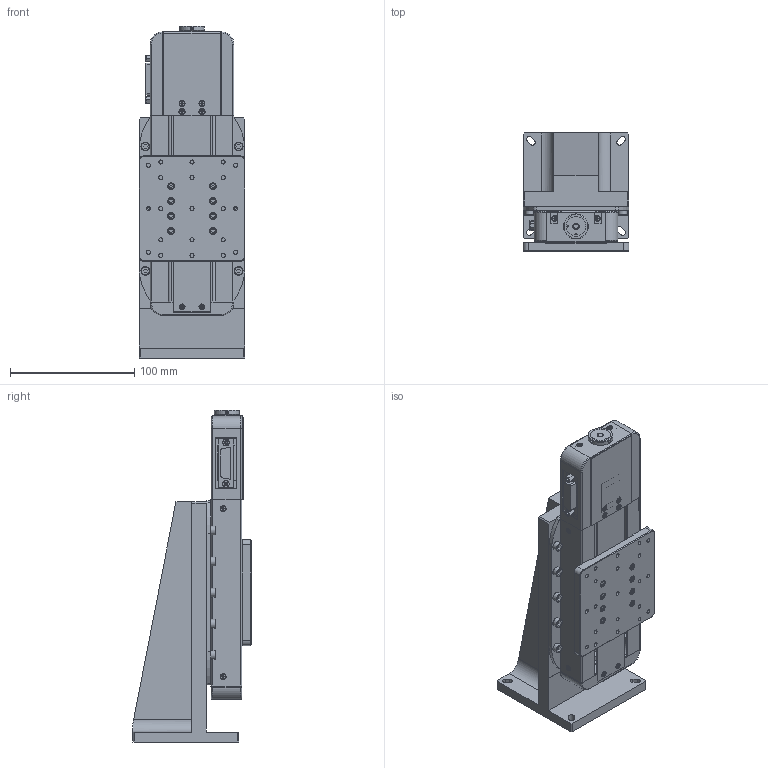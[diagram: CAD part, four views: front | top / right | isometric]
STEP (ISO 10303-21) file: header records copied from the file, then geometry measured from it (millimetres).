
FILE_DESCRIPTION(/* description */ (''),/* implementation_level */ '2;1');
FILE_NAME(/* name */ 'Z:\4_開発\SGSPﾘﾆｭｰｱﾙ\OSMS\OSMS20-85(Z)\OSMS20-85(Z)_STP.stp',/* time_stamp */ '2015-12-03T13:35:41+09:00',/* author */ ('s.makino'),/* organization */ (''),/* preprocessor_version */ 'ST-DEVELOPER v15.6',/* originating_system */ 'Autodesk Inventor 2015',/* authorisation */ '');
FILE_SCHEMA (('AUTOMOTIVE_DESIGN { 1 0 10303 214 3 1 1 }'));
Products named in the file (4): OSZ-20; OS2085Z-M02-13001-S08; OS2085Z-M02-13001-S03; OS2085Z-M02-13001-TS01
Bounding box: 85 x 95 x 266.8 mm (x, y, z)
Volume: 690218.8 mm3; surface area: 231731.8 mm2
Topology: 3 solids, 71 shells, 2391 faces, 5985 edges, 3878 vertices
Faces by surface type: plane 1530, cylinder 568, cone 278, torus 14, sphere 1
Full cylindrical faces by diameter (mm): 1.567 x23, 1.6 x4, 2 x4, 2.113 x36, 2.4 x4, 2.459 x28, 2.5 x8, 2.6 x10, 2.8 x10, 3 x33, 3.2 x4, 3.242 x31, 3.4 x10, 3.5 x6, 3.8 x2, 4 x31, 4.5 x25, 4.8 x3, 5 x4, 5.5 x30, 6 x7, 6.5 x14, 7 x12, 10.8 x1, 12 x1, 15 x1, 16 x1, 18 x1, 20 x1
Entity records: 69337 total; most frequent: CARTESIAN_POINT 12576, DIRECTION 11222, ORIENTED_EDGE 10428, EDGE_CURVE 5214, AXIS2_PLACEMENT_3D 3896, VERTEX_POINT 3624, LINE 3430, VECTOR 3430
